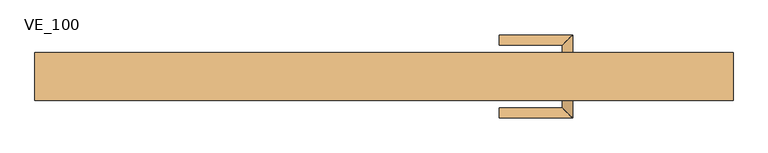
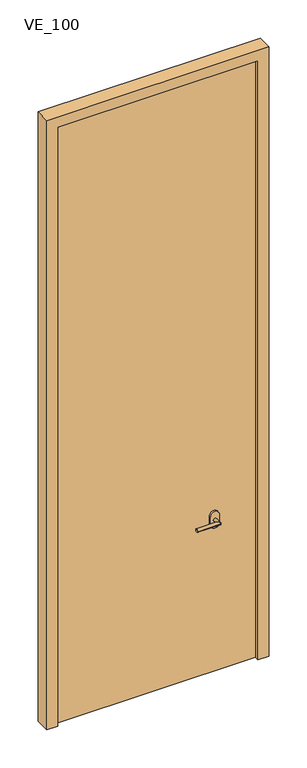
"""IFC4 building model written with IfcOpenShell, lengths in millimetres: door geometry, TRP_CP_ARC_PO_1B_PV : VE_100."""

from ifc_helpers import new_model, si_unit, point, frame, frame_2d, origin, origin_with_axes, place, context, project, spatial, polyline, circle_curve, ellipse_curve, trimmed, segment, composite_curve, outline, extrude, source, transform, mapped, element, save
from ifc_brep_helpers import plane_surface, cylinder_surface, advanced_brep


def ve_100_0215b1d1(model_context):
    return source(origin(), model_context, "Body", "SolidModel", [
        advanced_brep(
        [(260.6231001, -25.0, 740.0), (275.6231001, -25.0, 740.0), (260.6231001, -45.8278773, 740.0), (275.6231001, -60.8278773, 740.0), (168.1231001, -45.8278773, 740.0), (168.1231001, -60.8278773, 740.0)],
        [
            (0, 1, circle_curve(frame((268.1231001, -25.0, 740.0), z_axis=(0.0, 1.0, 0.0), x_axis=(1.0, 0.0, 0.0)), 7.5)),
            (1, 0, circle_curve(frame((268.1231001, -25.0, 740.0), z_axis=(0.0, 1.0, 0.0), x_axis=(1.0, 0.0, 0.0)), 7.5)),
            (0, 2),
            (2, 3, ellipse_curve(frame((268.1231001, -53.3278773, 740.0), z_axis=(0.7071067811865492, 0.7071067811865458, 0.0), x_axis=(-0.7071067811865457, 0.7071067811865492, 0.0)), 10.6066017, 7.5)),
            (3, 1),
            (3, 2, ellipse_curve(frame((268.1231001, -53.3278773, 740.0), z_axis=(0.7071067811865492, 0.7071067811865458, 0.0), x_axis=(-0.7071067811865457, 0.7071067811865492, 0.0)), 10.6066017, 7.5)),
            (4, 5, circle_curve(frame((168.1231001, -53.3278773, 740.0), z_axis=(-1.0, 0.0, 0.0), x_axis=(0.0, -1.0, 0.0)), 7.5)),
            (5, 4, circle_curve(frame((168.1231001, -53.3278773, 740.0), z_axis=(-1.0, 0.0, 0.0), x_axis=(0.0, -1.0, 0.0)), 7.5)),
            (2, 4),
            (5, 3),
        ],
        [
            plane_surface(frame((268.1231001, -25.0, 740.0), z_axis=(0.0, 1.0, 0.0), x_axis=(0.0, 0.0, 1.0))),
            cylinder_surface(frame((268.1231001, -25.0, 740.0), z_axis=(0.0, 1.0, 0.0), x_axis=(1.0, 0.0, 0.0)), 7.5),
            plane_surface(frame((168.1231001, -53.3278773, 740.0), z_axis=(-1.0, 0.0, 0.0), x_axis=(0.0, 0.0, 1.0))),
            cylinder_surface(frame((268.1231001, -53.3278773, 740.0), z_axis=(1.0, 0.0, 0.0), x_axis=(0.0, -1.0, 0.0)), 7.5),
        ],
        [
            (0, [[1, 2]]),
            (1, [[-1, 3, 4, 5]]),
            (1, [[-2, -5, 6, -3]]),
            (2, [[7, 8]]),
            (3, [[-4, 9, -8, 10]]),
            (3, [[-6, -10, -7, -9]]),
        ],
    ),
        extrude(outline(composite_curve([segment(trimmed(circle_curve(frame_2d((760.0, 268.1231001)), 20.0), [point((760.0, 288.1231001))], [point((760.0, 248.1231001))], False, "CARTESIAN"), True, "CONTINUOUS"), segment(polyline([(760.0, 248.1231001), (720.0, 248.1231001)]), True, "CONTINUOUS"), segment(trimmed(circle_curve(frame_2d((720.0, 268.1231001)), 20.0), [point((720.0, 248.1231001))], [point((720.0, 288.1231001))], False, "CARTESIAN"), True, "CONTINUOUS"), segment(polyline([(720.0, 288.1231001), (760.0, 288.1231001)]), True, "CONTINUOUS")], self_intersect=False)), frame((0.0, -25.0, 0.0), z_axis=(0.0, 1.0, 0.0), x_axis=(0.0, 0.0, 1.0)), (0.0, 0.0, 1.0), 10.0),
        advanced_brep(
        [(260.6231001, 25.0, 740.0), (275.6231001, 25.0, 740.0), (275.6231001, 60.8278773, 740.0), (260.6231001, 45.8278773, 740.0), (168.1231001, 45.8278773, 740.0), (168.1231001, 60.8278773, 740.0)],
        [
            (0, 1, circle_curve(frame((268.1231001, 25.0, 740.0), z_axis=(0.0, -1.0, 0.0), x_axis=(1.0, 0.0, 0.0)), 7.5)),
            (1, 0, circle_curve(frame((268.1231001, 25.0, 740.0), z_axis=(0.0, -1.0, 0.0), x_axis=(1.0, 0.0, 0.0)), 7.5)),
            (1, 2),
            (2, 3, ellipse_curve(frame((268.1231001, 53.3278773, 740.0), z_axis=(0.7071067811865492, -0.7071067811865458, 0.0), x_axis=(-0.7071067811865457, -0.7071067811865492, 0.0)), 10.6066017, 7.5)),
            (3, 0),
            (3, 2, ellipse_curve(frame((268.1231001, 53.3278773, 740.0), z_axis=(0.7071067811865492, -0.7071067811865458, 0.0), x_axis=(-0.7071067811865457, -0.7071067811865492, 0.0)), 10.6066017, 7.5)),
            (4, 5, circle_curve(frame((168.1231001, 53.3278773, 740.0), z_axis=(-1.0, 0.0, 0.0), x_axis=(0.0, 1.0, 0.0)), 7.5)),
            (5, 4, circle_curve(frame((168.1231001, 53.3278773, 740.0), z_axis=(-1.0, 0.0, 0.0), x_axis=(0.0, 1.0, 0.0)), 7.5)),
            (2, 5),
            (4, 3),
        ],
        [
            plane_surface(frame((268.1231001, 25.0, 740.0), z_axis=(0.0, -1.0, 0.0), x_axis=(0.0, 0.0, 1.0))),
            cylinder_surface(frame((268.1231001, 25.0, 740.0), z_axis=(0.0, -1.0, 0.0), x_axis=(1.0, 0.0, 0.0)), 7.5),
            plane_surface(frame((168.1231001, 53.3278773, 740.0), z_axis=(-1.0, 0.0, 0.0), x_axis=(0.0, 0.0, 1.0))),
            cylinder_surface(frame((268.1231001, 53.3278773, 740.0), z_axis=(1.0, 0.0, 0.0), x_axis=(0.0, 1.0, 0.0)), 7.5),
        ],
        [
            (0, [[1, 2]]),
            (1, [[3, 4, 5, -2]]),
            (1, [[-5, 6, -3, -1]]),
            (2, [[7, 8]]),
            (3, [[9, -7, 10, -4]]),
            (3, [[-10, -8, -9, -6]]),
        ],
    ),
        extrude(outline(composite_curve([segment(trimmed(circle_curve(frame_2d((760.0, 268.1231001)), 20.0), [point((760.0, 288.1231001))], [point((760.0, 248.1231001))], False, "CARTESIAN"), True, "CONTINUOUS"), segment(polyline([(760.0, 248.1231001), (720.0, 248.1231001)]), True, "CONTINUOUS"), segment(trimmed(circle_curve(frame_2d((720.0, 268.1231001)), 20.0), [point((720.0, 248.1231001))], [point((720.0, 288.1231001))], False, "CARTESIAN"), True, "CONTINUOUS"), segment(polyline([(720.0, 288.1231001), (760.0, 288.1231001)]), True, "CONTINUOUS")], self_intersect=False)), frame((0.0, 15.0, 0.0), z_axis=(0.0, 1.0, 0.0), x_axis=(0.0, 0.0, 1.0)), (0.0, 0.0, 1.0), 10.0),
        extrude(outline(polyline([(460.0, 15.0), (460.0, -15.0), (-460.0, -15.0), (-460.0, 15.0), (460.0, 15.0)])), origin_with_axes(), (0.0, 0.0, 1.0), 2905.0),
        extrude(outline(polyline([(0.0, 510.0), (2955.0, 510.0), (2955.0, -510.0), (0.0, -510.0), (0.0, -460.0), (2905.0, -460.0), (2905.0, 460.0), (0.0, 460.0), (0.0, 510.0)])), frame((0.0, -35.0, 0.0), z_axis=(0.0, 1.0, 0.0), x_axis=(0.0, 0.0, 1.0)), (0.0, 0.0, 1.0), 70.0),
    ])


if __name__ == "__main__":
    model = new_model("IFC4")
    model_context = context("Model", 3, world=origin())
    ifc_project = project(units=[si_unit("LENGTHUNIT", "METRE", prefix="MILLI")], contexts=[model_context])
    site = spatial("IfcSite", under=ifc_project)
    building = spatial("IfcBuilding", under=site)
    placement = place(None, origin())
    ve_100_shape = ve_100_0215b1d1(model_context)
    element("IfcDoor", 1, ObjectType="TRP_CP_ARC_PO_1B_PV : VE_100", at=placement, inside=building, context=model_context, shape_type="MappedRepresentation", body=[
        mapped(ve_100_shape, transform((0.0, 0.0, 0.0), x_axis=(1.0, 0.0, 0.0), y_axis=(0.0, 1.0, 0.0), z_axis=(0.0, 0.0, 1.0))),
    ])
    save(model, "model.ifc")
